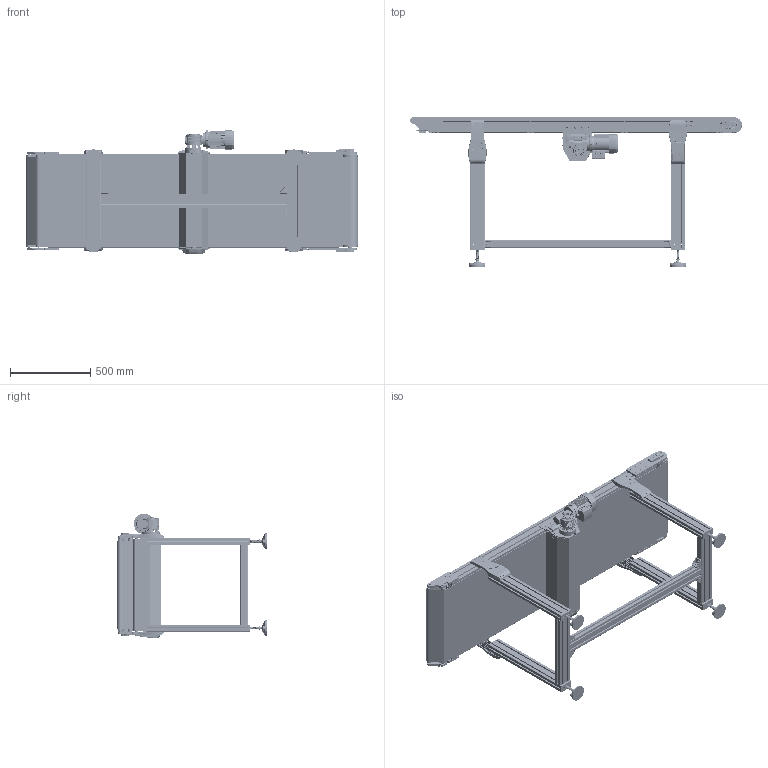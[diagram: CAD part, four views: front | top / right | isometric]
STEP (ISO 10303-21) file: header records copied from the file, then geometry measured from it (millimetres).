
FILE_DESCRIPTION (( 'STEP AP203' ), '1' );
FILE_NAME ('NASTRO_RETTILINEO_TAPPETO.step', '2026-06-03T13:08:32', ( 'Utente Windows' ), ( '' ), 'SwSTEP 2.0', 'SolidWorks 2024', '' );
FILE_SCHEMA (( 'CONFIG_CONTROL_DESIGN' ));
Length unit declared in the file: millimetre
Products named in the file (84): 084.802.021; VITE_DADO_M6X12; TRAVERSA_50-95_CENTRALE_Default<A macchina>; 084.803.003; 084.802.010; 084.802.064; PIEDE_95; BLOCCO_RINVIO_95_PENNA_DX; VITI TSEI UNI 5933_M4x12 UNI 5933; FLANGIA_GAMBA_95_CON GIUNTI; 084.812.003; TAPPETO_CENTRALE_1PENNA; 084.302.000 DADI ALUSIC 13x13-1_084.302.004; RULLO_95_Default<A macchina>; TELAIO_95_STANDARD_Default<A macchina>; BLOCCO_PERNO_95_RINVIO; 084.402.005; VITI TSEI UNI 5933_M8x16 UNI 5933; CARTER_50-95_CENTRALE; 084.802.036; 084.303.001; VITI TE UNI 5739_M8x12 UNI 5739; 084.302.060; RONDELLE UNI 6592_6.4x12.5 UNI 6592; RONDELLE FASCIA LARGA UNI 6593_6.4x24 UNI 6593; CHIAVETTE_A 8x7x20 UNI 6604-69; 456.015.101_456.015.101 DX; 084.802.020; PERNO_SUP_95_PENNA; BLOCCO_RINVIO_95_PENNA_SX; 084.405.001; 084.301.000 VITI ALUSIC_084.301.003; 084.305.003-1; 456.015.101_456.015.101 SX; 2010.000.073; 084.201.019; VITI TSEI UNI 5933_M8x20 UNI 5933; VITI TE UNI 5739_M8x20 UNI 5739; VITI TSEI UNI 5933_M6x12 UNI 5933; 30UNI7435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
Assembly tree (245 placements, depth 4):
  NASTRO_RETTILINEO_TAPPETO
    TAPPETO_CENTRALE_1PENNA
    TELAIO_95_STANDARD_Default<A macchina>
    LAMIERA_1_PENNA
    RULLO_95_Default<A macchina>  x2
    BLOCCO_PERNO_95_RINVIO  x3
      084.812.003
      084.810.003
      30UNI7435
    BLOCCO_RINVIO_95_STANDARD_CON TENDINASTRO E CARTER  x2
      084.808.002_084.808.002
      084.803.003
      084.302.060
      084.802.019_084.802.019
      VITI TSEI UNI 5933_M4x12 UNI 5933
      084.302.000 DADI ALUSIC 13x13-1_084.302.004
      084.301.000 VITI ALUSIC_084.301.003
      084.802.071
    RULLO_95_PENNA  x2
    BLOCCO_RINVIO_95_PENNA_SX
      456.015.101_456.015.101 SX
      084.802.036  x2
      084.301.000 VITI ALUSIC_084.301.003  x4
      VITI TE UNI 5739_M6x70 UNI 5739
      VITI TSEI UNI 5933_M8x30 UNI 5933
      084.302.016  x2
      12UNI7435  x2
    BLOCCO_RINVIO_95_PENNA_DX
      456.015.101_456.015.101 DX
      084.802.036  x2
      084.301.000 VITI ALUSIC_084.301.003  x4
      VITI TE UNI 5739_M6x70 UNI 5739
      VITI TSEI UNI 5933_M8x30 UNI 5933
      084.302.016  x2
      12UNI7435  x2
    PERNO_SUP_95_PENNA
    PERNO_INF_95_PENNA
    BLOCCO_TRAINO_50-95_CENTRALE_44
      084.802.010
      084.802.021
      084.802.004-1  x2
      084.802.003
      VITI TSEI UNI 5933_M8x20 UNI 5933  x4
      084.302.017
      VITI TE UNI 5739_M6x50 UNI 5739  x2
      DADI ESAGONALI NORMALI UNI 5588_M6 UNI 5588  x2
      VITI TE UNI 5739_M6x16 UNI 5739  x2
      RONDELLE UNI 6592_6.4x12.5 UNI 6592  x2
      VITI TSEI UNI 5933_M6x12 UNI 5933  x4
      VITI TSEI UNI 5933_M8x16 UNI 5933  x3
      VITI TE UNI 5739_M8x20 UNI 5739  x4
      084.802.070
    BLOCCO_TRAINO_50-95_CENTRALE
      084.802.004-1  x2
      084.802.020
      084.802.003
      VITI TSEI UNI 5933_M8x20 UNI 5933  x4
      VITI TSEI UNI 5933_M6x12 UNI 5933  x6
      RONDELLE UNI 6592_8.4x17 UNI 6592  x2
      VITI TE UNI 5739_M8x12 UNI 5739  x2
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Bounding box: 2067.5 x 930 x 770.4 mm (x, y, z)
Volume: 29444833.4 mm3; surface area: 21077271.2 mm2
Topology: 386 solids, 399 shells, 17334 faces, 44788 edges, 28596 vertices
Faces by surface type: plane 7280, cylinder 5087, bspline 2047, cone 1773, torus 1048, sphere 99
Entity records: 306214 total; most frequent: CARTESIAN_POINT 120704, ORIENTED_EDGE 38414, DIRECTION 32901, EDGE_CURVE 19207, VERTEX_POINT 12348, AXIS2_PLACEMENT_3D 11488, VECTOR 9925, LINE 9925
